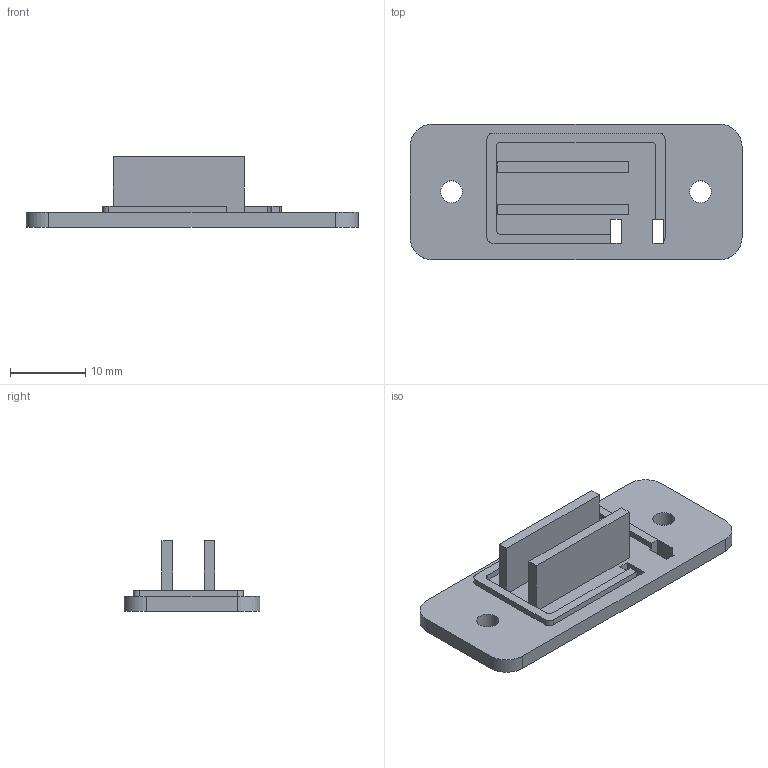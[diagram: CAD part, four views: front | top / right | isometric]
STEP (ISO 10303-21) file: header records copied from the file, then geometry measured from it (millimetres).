
FILE_DESCRIPTION(('Open CASCADE Model'),'2;1');
FILE_NAME('Open CASCADE Shape Model','2026-10-19T15:20:36',('Author'),( 'Open CASCADE'),'Open CASCADE STEP processor 7.9','Open CASCADE 7.9' ,'Unknown');
FILE_SCHEMA(('AUTOMOTIVE_DESIGN { 1 0 10303 214 1 1 1 1 }'));
Length unit declared in the file: millimetre
Products named in the file (1): Open CASCADE STEP translator 7.9 4
Bounding box: 44 x 18 x 9.4 mm (x, y, z)
Volume: 1944.9 mm3; surface area: 2496.5 mm2
Topology: 1 solids, 1 shells, 46 faces, 128 edges, 85 vertices
Faces by surface type: plane 33, cylinder 13
Full cylindrical faces by diameter (mm): 2.9 x2
Entity records: 3144 total; most frequent: CARTESIAN_POINT 640, DIRECTION 440, LINE 280, VECTOR 280, ORIENTED_EDGE 256, PCURVE 256, DEFINITIONAL_REPRESENTATION 256, EDGE_CURVE 128
